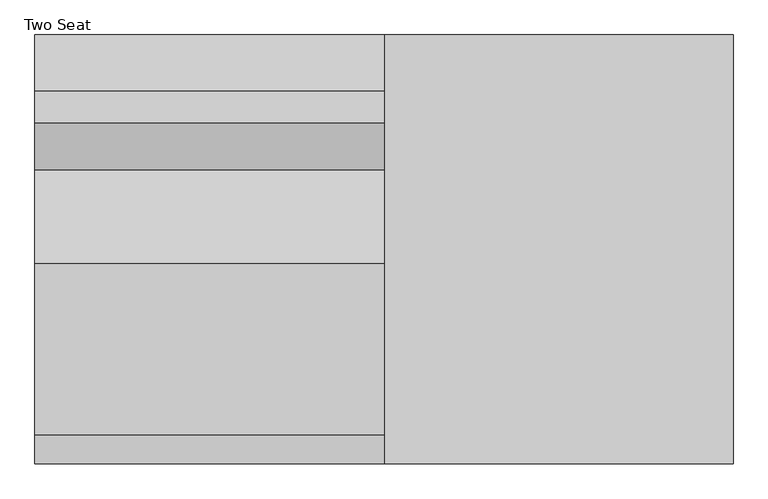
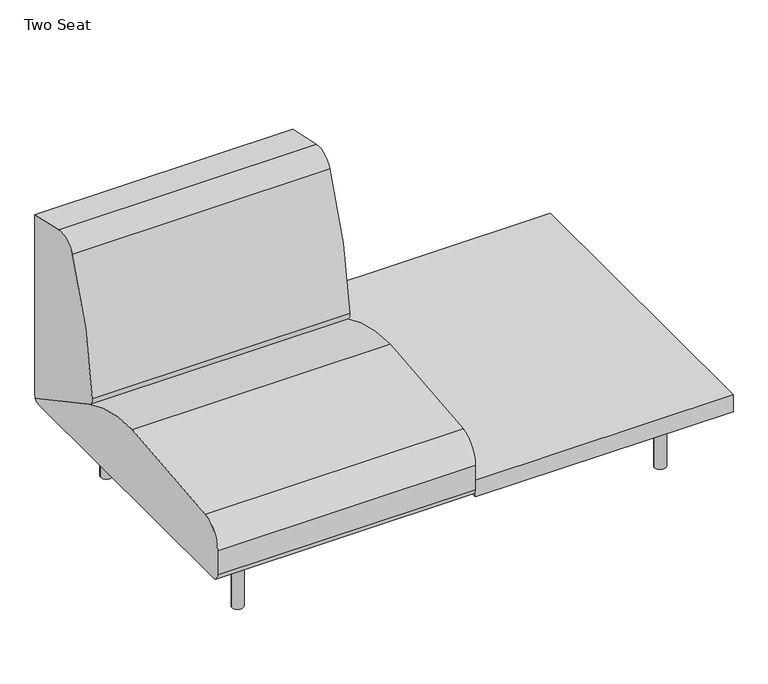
"""IFC4 building model written with IfcOpenShell, lengths in millimetres: furniture geometry, Coalesse_AM_Seating_LoungeChair_Sistema_LegBase_TwoSeat : Two Seat."""

from ifc_helpers import new_model, si_unit, point, frame, frame_2d, origin, origin_with_axes, place, context, project, spatial, polyline, circle_curve, trimmed, segment, composite_curve, outline, extrude, source, transform, mapped, element, save


def two_seat_54fc7ad5(model_context):
    return source(origin(), model_context, "Body", "SweptSolid", [
        extrude(outline(composite_curve([segment(trimmed(circle_curve(frame_2d((989.1765227, 335.9943389)), 6.096), [point((995.2725227, 335.9943389))], [point((983.0805227, 335.9943389))], False, "CARTESIAN"), True, "CONTINUOUS"), segment(trimmed(circle_curve(frame_2d((989.1765227, 335.9943389)), 6.096), [point((983.0805227, 335.9943389))], [point((995.2725227, 335.9943389))], False, "CARTESIAN"), True, "CONTINUOUS")], self_intersect=False)), origin_with_axes(), (0.0, 0.0, 1.0), 4.3662291),
        extrude(outline(composite_curve([segment(trimmed(circle_curve(frame_2d((989.1765227, -327.2630889)), 6.096), [point((995.2725227, -327.2630889))], [point((983.0805227, -327.2630889))], False, "CARTESIAN"), True, "CONTINUOUS"), segment(trimmed(circle_curve(frame_2d((989.1765227, -327.2630889)), 6.096), [point((983.0805227, -327.2630889))], [point((995.2725227, -327.2630889))], False, "CARTESIAN"), True, "CONTINUOUS")], self_intersect=False)), origin_with_axes(), (0.0, 0.0, 1.0), 4.3662291),
        extrude(outline(composite_curve([segment(polyline([(157.0399209, 1001.756375), (201.7356243, 1001.756375)]), True, "CONTINUOUS"), segment(trimmed(circle_curve(frame_2d((201.7356243, 998.708375)), 3.048), [point((201.7356243, 1001.756375))], [point((204.7836243, 998.708375))], False, "CARTESIAN"), True, "CONTINUOUS"), segment(polyline([(204.7836243, 998.708375), (204.7836243, 979.366199)]), True, "CONTINUOUS"), segment(trimmed(circle_curve(frame_2d((201.7356243, 979.366199)), 3.048), [point((204.7836243, 979.366199))], [point((201.7356243, 976.318199))], False, "CARTESIAN"), True, "CONTINUOUS"), segment(polyline([(201.7356243, 976.318199), (157.1249936, 976.318199)]), True, "CONTINUOUS"), segment(trimmed(circle_curve(frame_2d((157.1249936, 979.4512718)), 3.1330728), [point((157.1249936, 976.318199))], [point((153.9919209, 979.4512718))], False, "CARTESIAN"), True, "CONTINUOUS"), segment(polyline([(153.9919209, 979.4512718), (153.9919209, 998.708375)]), True, "CONTINUOUS"), segment(trimmed(circle_curve(frame_2d((157.0399209, 998.708375)), 3.048), [point((153.9919209, 998.708375))], [point((157.0399209, 1001.756375))], False, "CARTESIAN"), True, "CONTINUOUS")], self_intersect=False)), frame((0.0, 222.3519802, 0.0), z_axis=(0.0, 1.0, 0.0), x_axis=(0.0, 0.0, 1.0)), (0.0, 0.0, 1.0), 92.6273161),
        extrude(outline(composite_curve([segment(polyline([(157.0399209, 1001.756375), (201.7356243, 1001.756375)]), True, "CONTINUOUS"), segment(trimmed(circle_curve(frame_2d((201.7356243, 998.708375)), 3.048), [point((201.7356243, 1001.756375))], [point((204.7836243, 998.708375))], False, "CARTESIAN"), True, "CONTINUOUS"), segment(polyline([(204.7836243, 998.708375), (204.7836243, 979.366199)]), True, "CONTINUOUS"), segment(trimmed(circle_curve(frame_2d((201.7356243, 979.366199)), 3.048), [point((204.7836243, 979.366199))], [point((201.7356243, 976.318199))], False, "CARTESIAN"), True, "CONTINUOUS"), segment(polyline([(201.7356243, 976.318199), (157.1249936, 976.318199)]), True, "CONTINUOUS"), segment(trimmed(circle_curve(frame_2d((157.1249936, 979.4512718)), 3.1330728), [point((157.1249936, 976.318199))], [point((153.9919209, 979.4512718))], False, "CARTESIAN"), True, "CONTINUOUS"), segment(polyline([(153.9919209, 979.4512718), (153.9919209, 998.708375)]), True, "CONTINUOUS"), segment(trimmed(circle_curve(frame_2d((157.0399209, 998.708375)), 3.048), [point((153.9919209, 998.708375))], [point((157.0399209, 1001.756375))], False, "CARTESIAN"), True, "CONTINUOUS")], self_intersect=False)), frame((0.0, -314.9792963, 0.0), z_axis=(0.0, 1.0, 0.0), x_axis=(0.0, 0.0, 1.0)), (0.0, 0.0, 1.0), 92.6273161),
        extrude(outline(composite_curve([segment(trimmed(circle_curve(frame_2d((176.3356606, 966.5259944)), 3.048), [point((179.3836606, 966.5259944))], [point((176.3356606, 963.4779944))], False, "CARTESIAN"), True, "CONTINUOUS"), segment(polyline([(176.3356606, 963.4779944), (157.0399209, 963.4779944)]), True, "CONTINUOUS"), segment(trimmed(circle_curve(frame_2d((157.0399209, 966.5259944)), 3.048), [point((157.0399209, 963.4779944))], [point((153.9919209, 966.5259944))], False, "CARTESIAN"), True, "CONTINUOUS"), segment(polyline([(153.9919209, 966.5259944), (153.9919209, 1011.2135501)]), True, "CONTINUOUS"), segment(trimmed(circle_curve(frame_2d((157.056462, 1011.2135501)), 3.0645412), [point((153.9919209, 1011.2135501))], [point((157.056462, 1014.2780913))], False, "CARTESIAN"), True, "CONTINUOUS"), segment(polyline([(157.056462, 1014.2780913), (176.3356606, 1014.2780913)]), True, "CONTINUOUS"), segment(trimmed(circle_curve(frame_2d((176.3356606, 1011.2300913)), 3.048), [point((176.3356606, 1014.2780913))], [point((179.3836606, 1011.2300913))], False, "CARTESIAN"), True, "CONTINUOUS"), segment(polyline([(179.3836606, 1011.2300913), (179.3836606, 966.5259944)]), True, "CONTINUOUS")], self_intersect=False)), frame((0.0, -222.3519802, 0.0), z_axis=(0.0, 1.0, 0.0), x_axis=(0.0, 0.0, 1.0)), (0.0, 0.0, 1.0), 444.7039604),
        extrude(outline(composite_curve([segment(trimmed(circle_curve(frame_2d((989.1765227, 332.3095741)), 16.51), [point((1005.6865227, 332.3095741))], [point((972.6665227, 332.3095741))], False, "CARTESIAN"), True, "CONTINUOUS"), segment(trimmed(circle_curve(frame_2d((989.1765227, 332.3095741)), 16.51), [point((972.6665227, 332.3095741))], [point((1005.6865227, 332.3095741))], False, "CARTESIAN"), True, "CONTINUOUS")], self_intersect=False)), frame((0.0, 0.0, 4.3662291), z_axis=(0.0, 0.0, 1.0), x_axis=(1.0, 0.0, 0.0)), (0.0, 0.0, 1.0), 200.1037709),
        extrude(outline(composite_curve([segment(trimmed(circle_curve(frame_2d((988.7796477, -327.5470741)), 16.51), [point((1005.2896477, -327.5470741))], [point((972.2696477, -327.5470741))], False, "CARTESIAN"), True, "CONTINUOUS"), segment(trimmed(circle_curve(frame_2d((988.7796477, -327.5470741)), 16.51), [point((972.2696477, -327.5470741))], [point((1005.2896477, -327.5470741))], False, "CARTESIAN"), True, "CONTINUOUS")], self_intersect=False)), frame((0.0, 0.0, 4.3662291), z_axis=(0.0, 0.0, 1.0), x_axis=(1.0, 0.0, 0.0)), (0.0, 0.0, 1.0), 200.1037709),
        extrude(outline(composite_curve([segment(polyline([(459.4795619, 775.8234697), (459.4795619, 228.1929806)]), True, "CONTINUOUS"), segment(trimmed(circle_curve(frame_2d((191.495971, 228.1929806)), 267.983591), [point((459.4795619, 228.1929806))], [point((458.9860775, 211.937276))], False, "CARTESIAN"), True, "CONTINUOUS"), segment(polyline([(458.9860775, 211.937276), (183.8457951, 360.6719742)]), True, "CONTINUOUS"), segment(trimmed(circle_curve(frame_2d((195.9245701, 383.0161724)), 25.4), [point((183.8457951, 360.6719742))], [point((170.6161698, 385.1713698))], False, "CARTESIAN"), True, "CONTINUOUS"), segment(trimmed(circle_curve(frame_2d((1327.5544182, 286.6495247)), 1161.1256023), [point((170.6161698, 385.1713698))], [point((271.1088001, 768.4537592))], False, "CARTESIAN"), True, "CONTINUOUS"), segment(trimmed(circle_curve(frame_2d((326.5730192, 743.158661)), 60.96), [point((271.1088001, 768.4537592))], [point((339.9143278, 802.6408523))], False, "CARTESIAN"), True, "CONTINUOUS"), segment(polyline([(339.9143278, 802.6408523), (459.4795619, 775.8234697)]), True, "CONTINUOUS")], self_intersect=False)), frame((-374.8034773, 0.0, 0.0), z_axis=(1.0, 0.0, 0.0), x_axis=(0.0, 1.0, 0.0)), (0.0, 0.0, 1.0), 749.3),
        extrude(outline(composite_curve([segment(trimmed(circle_curve(frame_2d((-438.9184381, 226.822)), 22.352), [point((-438.9184381, 204.47))], [point((-461.2704381, 226.822))], False, "CARTESIAN"), True, "CONTINUOUS"), segment(polyline([(-461.2704381, 226.822), (-461.2704381, 301.4421993)]), True, "CONTINUOUS"), segment(trimmed(circle_curve(frame_2d((-385.0704381, 301.4421993)), 76.2), [point((-461.2704381, 301.4421993))], [point((-398.9277015, 376.3716077))], False, "CARTESIAN"), True, "CONTINUOUS"), segment(trimmed(circle_curve(frame_2d((2.2103559, -1792.6740646)), 2205.8265729), [point((-398.9277015, 376.3716077))], [point((-31.1968175, 412.8995185))], False, "CARTESIAN"), True, "CONTINUOUS"), segment(trimmed(circle_curve(frame_2d((-24.5128424, -28.3829182)), 441.333054), [point((-31.1968175, 412.8995185))], [point((184.5757008, 360.2774035))], False, "CARTESIAN"), True, "CONTINUOUS"), segment(polyline([(184.5757008, 360.2774035), (458.9860775, 211.937276)]), True, "CONTINUOUS"), segment(trimmed(circle_curve(frame_2d((442.3266309, 226.7871991)), 22.3171991), [point((458.9860775, 211.937276))], [point((442.3266309, 204.47))], False, "CARTESIAN"), True, "CONTINUOUS"), segment(polyline([(442.3266309, 204.47), (-438.9184381, 204.47)]), True, "CONTINUOUS")], self_intersect=False)), frame((-374.8034773, 0.0, 0.0), z_axis=(1.0, 0.0, 0.0), x_axis=(0.0, 1.0, 0.0)), (0.0, 0.0, 1.0), 749.3),
        extrude(outline(polyline([(1123.7965227, 459.4795619), (1123.7965227, -461.2704381), (374.4965227, -461.2704381), (374.4965227, 459.4795619), (1123.7965227, 459.4795619)])), frame((0.0, 0.0, 204.47), z_axis=(0.0, 0.0, 1.0), x_axis=(1.0, 0.0, 0.0)), (0.0, 0.0, 1.0), 51.0294654),
        extrude(outline(composite_curve([segment(trimmed(circle_curve(frame_2d((-240.1834773, 335.9943389)), 6.096), [point((-246.2794773, 335.9943389))], [point((-234.0874773, 335.9943389))], False, "CARTESIAN"), True, "CONTINUOUS"), segment(trimmed(circle_curve(frame_2d((-240.1834773, 335.9943389)), 6.096), [point((-234.0874773, 335.9943389))], [point((-246.2794773, 335.9943389))], False, "CARTESIAN"), True, "CONTINUOUS")], self_intersect=False)), origin_with_axes(), (0.0, 0.0, 1.0), 4.3662291),
        extrude(outline(composite_curve([segment(trimmed(circle_curve(frame_2d((-240.1834773, -327.2630889)), 6.096), [point((-246.2794773, -327.2630889))], [point((-234.0874773, -327.2630889))], False, "CARTESIAN"), True, "CONTINUOUS"), segment(trimmed(circle_curve(frame_2d((-240.1834773, -327.2630889)), 6.096), [point((-234.0874773, -327.2630889))], [point((-246.2794773, -327.2630889))], False, "CARTESIAN"), True, "CONTINUOUS")], self_intersect=False)), origin_with_axes(), (0.0, 0.0, 1.0), 4.3662291),
        extrude(outline(composite_curve([segment(trimmed(circle_curve(frame_2d((157.0399209, -249.7153296)), 3.048), [point((157.0399209, -252.7633296))], [point((153.9919209, -249.7153296))], False, "CARTESIAN"), True, "CONTINUOUS"), segment(polyline([(153.9919209, -249.7153296), (153.9919209, -230.4582264)]), True, "CONTINUOUS"), segment(trimmed(circle_curve(frame_2d((157.1249936, -230.4582264)), 3.1330728), [point((153.9919209, -230.4582264))], [point((157.1249936, -227.3251537))], False, "CARTESIAN"), True, "CONTINUOUS"), segment(polyline([(157.1249936, -227.3251537), (201.7356243, -227.3251537)]), True, "CONTINUOUS"), segment(trimmed(circle_curve(frame_2d((201.7356243, -230.3731537)), 3.048), [point((201.7356243, -227.3251537))], [point((204.7836243, -230.3731537))], False, "CARTESIAN"), True, "CONTINUOUS"), segment(polyline([(204.7836243, -230.3731537), (204.7836243, -249.7153296)]), True, "CONTINUOUS"), segment(trimmed(circle_curve(frame_2d((201.7356243, -249.7153296)), 3.048), [point((204.7836243, -249.7153296))], [point((201.7356243, -252.7633296))], False, "CARTESIAN"), True, "CONTINUOUS"), segment(polyline([(201.7356243, -252.7633296), (157.0399209, -252.7633296)]), True, "CONTINUOUS")], self_intersect=False)), frame((0.0, 222.3519802, 0.0), z_axis=(0.0, 1.0, 0.0), x_axis=(0.0, 0.0, 1.0)), (0.0, 0.0, 1.0), 92.6273161),
        extrude(outline(composite_curve([segment(trimmed(circle_curve(frame_2d((157.0399209, -249.7153296)), 3.048), [point((157.0399209, -252.7633296))], [point((153.9919209, -249.7153296))], False, "CARTESIAN"), True, "CONTINUOUS"), segment(polyline([(153.9919209, -249.7153296), (153.9919209, -230.4582264)]), True, "CONTINUOUS"), segment(trimmed(circle_curve(frame_2d((157.1249936, -230.4582264)), 3.1330728), [point((153.9919209, -230.4582264))], [point((157.1249936, -227.3251537))], False, "CARTESIAN"), True, "CONTINUOUS"), segment(polyline([(157.1249936, -227.3251537), (201.7356243, -227.3251537)]), True, "CONTINUOUS"), segment(trimmed(circle_curve(frame_2d((201.7356243, -230.3731537)), 3.048), [point((201.7356243, -227.3251537))], [point((204.7836243, -230.3731537))], False, "CARTESIAN"), True, "CONTINUOUS"), segment(polyline([(204.7836243, -230.3731537), (204.7836243, -249.7153296)]), True, "CONTINUOUS"), segment(trimmed(circle_curve(frame_2d((201.7356243, -249.7153296)), 3.048), [point((204.7836243, -249.7153296))], [point((201.7356243, -252.7633296))], False, "CARTESIAN"), True, "CONTINUOUS"), segment(polyline([(201.7356243, -252.7633296), (157.0399209, -252.7633296)]), True, "CONTINUOUS")], self_intersect=False)), frame((0.0, -314.9792963, 0.0), z_axis=(0.0, 1.0, 0.0), x_axis=(0.0, 0.0, 1.0)), (0.0, 0.0, 1.0), 92.6273161),
        extrude(outline(composite_curve([segment(polyline([(179.3836606, -217.532949), (179.3836606, -262.2370459)]), True, "CONTINUOUS"), segment(trimmed(circle_curve(frame_2d((176.3356606, -262.2370459)), 3.048), [point((179.3836606, -262.2370459))], [point((176.3356606, -265.2850459))], False, "CARTESIAN"), True, "CONTINUOUS"), segment(polyline([(176.3356606, -265.2850459), (157.056462, -265.2850459)]), True, "CONTINUOUS"), segment(trimmed(circle_curve(frame_2d((157.056462, -262.2205047)), 3.0645412), [point((157.056462, -265.2850459))], [point((153.9919209, -262.2205047))], False, "CARTESIAN"), True, "CONTINUOUS"), segment(polyline([(153.9919209, -262.2205047), (153.9919209, -217.532949)]), True, "CONTINUOUS"), segment(trimmed(circle_curve(frame_2d((157.0399209, -217.532949)), 3.048), [point((153.9919209, -217.532949))], [point((157.0399209, -214.484949))], False, "CARTESIAN"), True, "CONTINUOUS"), segment(polyline([(157.0399209, -214.484949), (176.3356606, -214.484949)]), True, "CONTINUOUS"), segment(trimmed(circle_curve(frame_2d((176.3356606, -217.532949)), 3.048), [point((176.3356606, -214.484949))], [point((179.3836606, -217.532949))], False, "CARTESIAN"), True, "CONTINUOUS")], self_intersect=False)), frame((0.0, -222.3519802, 0.0), z_axis=(0.0, 1.0, 0.0), x_axis=(0.0, 0.0, 1.0)), (0.0, 0.0, 1.0), 444.7039604),
        extrude(outline(composite_curve([segment(trimmed(circle_curve(frame_2d((-240.1834773, 332.3095741)), 16.51), [point((-256.6934773, 332.3095741))], [point((-223.6734773, 332.3095741))], False, "CARTESIAN"), True, "CONTINUOUS"), segment(trimmed(circle_curve(frame_2d((-240.1834773, 332.3095741)), 16.51), [point((-223.6734773, 332.3095741))], [point((-256.6934773, 332.3095741))], False, "CARTESIAN"), True, "CONTINUOUS")], self_intersect=False)), frame((0.0, 0.0, 4.3662291), z_axis=(0.0, 0.0, 1.0), x_axis=(1.0, 0.0, 0.0)), (0.0, 0.0, 1.0), 200.1037709),
        extrude(outline(composite_curve([segment(trimmed(circle_curve(frame_2d((-239.7866023, -327.5470741)), 16.51), [point((-256.2966023, -327.5470741))], [point((-223.2766023, -327.5470741))], False, "CARTESIAN"), True, "CONTINUOUS"), segment(trimmed(circle_curve(frame_2d((-239.7866023, -327.5470741)), 16.51), [point((-223.2766023, -327.5470741))], [point((-256.2966023, -327.5470741))], False, "CARTESIAN"), True, "CONTINUOUS")], self_intersect=False)), frame((0.0, 0.0, 4.3662291), z_axis=(0.0, 0.0, 1.0), x_axis=(1.0, 0.0, 0.0)), (0.0, 0.0, 1.0), 200.1037709),
    ])


if __name__ == "__main__":
    model = new_model("IFC4")
    model_context = context("Model", 3, world=origin())
    ifc_project = project(units=[si_unit("LENGTHUNIT", "METRE", prefix="MILLI")], contexts=[model_context])
    site = spatial("IfcSite", under=ifc_project)
    building = spatial("IfcBuilding", under=site)
    placement = place(None, origin())
    two_seat_shape = two_seat_54fc7ad5(model_context)
    element("IfcFurniture", 1, ObjectType="Coalesse_AM_Seating_LoungeChair_Sistema_LegBase_TwoSeat : Two Seat", at=placement, inside=building, context=model_context, shape_type="MappedRepresentation", body=[
        mapped(two_seat_shape, transform((0.0, 0.0, 0.0), x_axis=(1.0, 0.0, 0.0), y_axis=(0.0, 1.0, 0.0), z_axis=(0.0, 0.0, 1.0))),
    ])
    save(model, "model.ifc")
